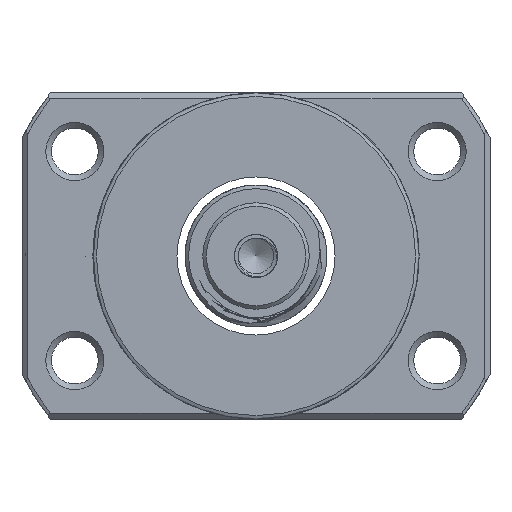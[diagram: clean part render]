
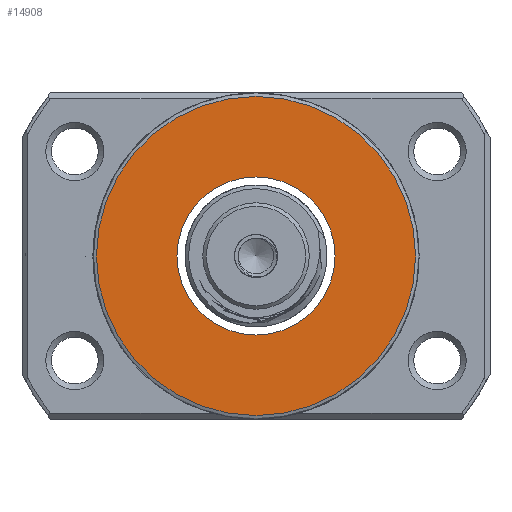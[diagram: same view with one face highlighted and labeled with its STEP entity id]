
A CAD part, left-side view. The second image highlights one B-rep face of the part: STEP entity #14908.
In plain terms, the highlighted planar face has unit normal (-1, 0, 0).
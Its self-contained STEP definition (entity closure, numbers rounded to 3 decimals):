
#1227 = CARTESIAN_POINT ( 'NONE',  ( -53.324, 0., 22.5 ) ) ;
#3942 = VERTEX_POINT ( 'NONE', #1227 ) ;
#5503 = ORIENTED_EDGE ( 'NONE', *, *, #10165, .F. ) ;
#6095 = VERTEX_POINT ( 'NONE', #23592 ) ;
#6195 = FACE_BOUND ( 'NONE', #8613, .T. ) ;
#7382 = CIRCLE ( 'NONE', #20657, 22.5 ) ;
#8613 = EDGE_LOOP ( 'NONE', ( #5503 ) ) ;
#9673 = CIRCLE ( 'NONE', #16518, 11.15 ) ;
#10165 = EDGE_CURVE ( 'NONE', #6095, #6095, #9673, .T. ) ;
#10524 = DIRECTION ( 'NONE',  ( -1., 0., 0. ) ) ;
#11036 = EDGE_CURVE ( 'NONE', #3942, #3942, #7382, .T. ) ;
#11970 = ORIENTED_EDGE ( 'NONE', *, *, #11036, .T. ) ;
#11992 = AXIS2_PLACEMENT_3D ( 'NONE', #16803, #20963, #14510 ) ;
#12906 = CARTESIAN_POINT ( 'NONE',  ( -53.324, 0., 0. ) ) ;
#14510 = DIRECTION ( 'NONE',  ( 0., 0., 1. ) ) ;
#14908 = ADVANCED_FACE ( 'NONE', ( #28106, #6195 ), #14938, .T. ) ;
#14938 = PLANE ( 'NONE',  #11992 ) ;
#15188 = DIRECTION ( 'NONE',  ( 0., 0., 1. ) ) ;
#15482 = EDGE_LOOP ( 'NONE', ( #11970 ) ) ;
#16518 = AXIS2_PLACEMENT_3D ( 'NONE', #12906, #17339, #15188 ) ;
#16803 = CARTESIAN_POINT ( 'NONE',  ( -53.324, 11.15, 0. ) ) ;
#17339 = DIRECTION ( 'NONE',  ( -1., 0., 0. ) ) ;
#20657 = AXIS2_PLACEMENT_3D ( 'NONE', #25981, #10524, #26116 ) ;
#20963 = DIRECTION ( 'NONE',  ( -1., 0., 0. ) ) ;
#23592 = CARTESIAN_POINT ( 'NONE',  ( -53.324, 0., 11.15 ) ) ;
#25981 = CARTESIAN_POINT ( 'NONE',  ( -53.324, 0., 0. ) ) ;
#26116 = DIRECTION ( 'NONE',  ( 0., 0., 1. ) ) ;
#28106 = FACE_OUTER_BOUND ( 'NONE', #15482, .T. ) ;
